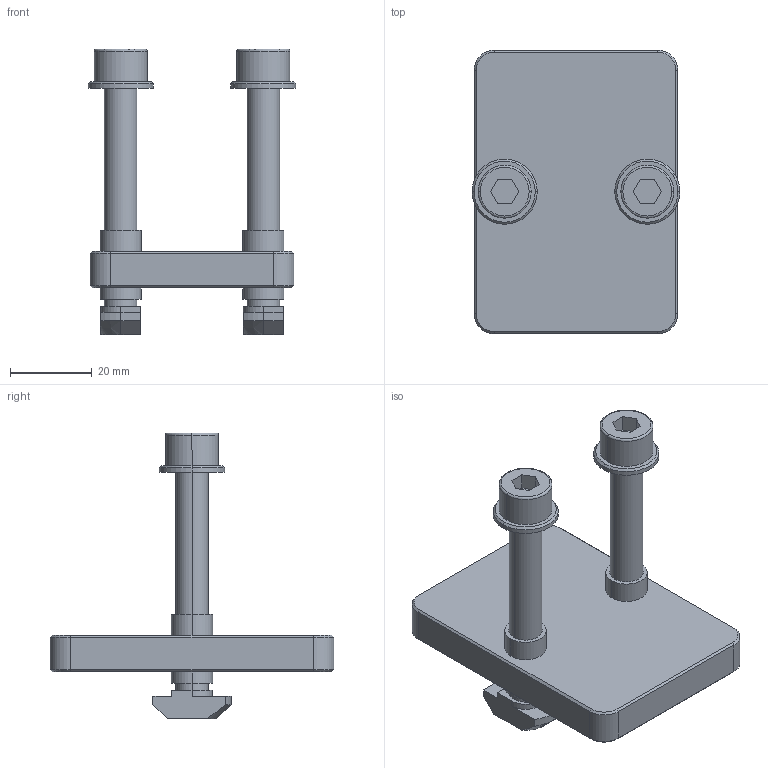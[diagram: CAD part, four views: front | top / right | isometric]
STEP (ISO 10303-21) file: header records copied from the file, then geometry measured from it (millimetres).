
FILE_DESCRIPTION (( 'STEP AP203' ), '1' );
FILE_NAME ('Asutec_75000128.STEP', '2024-11-05T06:28:19', ( '' ), ( '' ), 'SwSTEP 2.0', 'SolidWorks 2020', '' );
FILE_SCHEMA (( 'CONFIG_CONTROL_DESIGN' ));
Length unit declared in the file: millimetre
Products named in the file (1): Asutec_75000128
Bounding box: 51 x 69.6 x 70.1 mm (x, y, z)
Volume: 40171.6 mm3; surface area: 15897.2 mm2
Topology: 3 solids, 3 shells, 152 faces, 340 edges, 212 vertices
Faces by surface type: plane 68, cylinder 52, cone 28, torus 4
Entity records: 4309 total; most frequent: DIRECTION 778, CARTESIAN_POINT 733, ORIENTED_EDGE 680, EDGE_CURVE 340, AXIS2_PLACEMENT_3D 289, VERTEX_POINT 212, LINE 200, VECTOR 200
